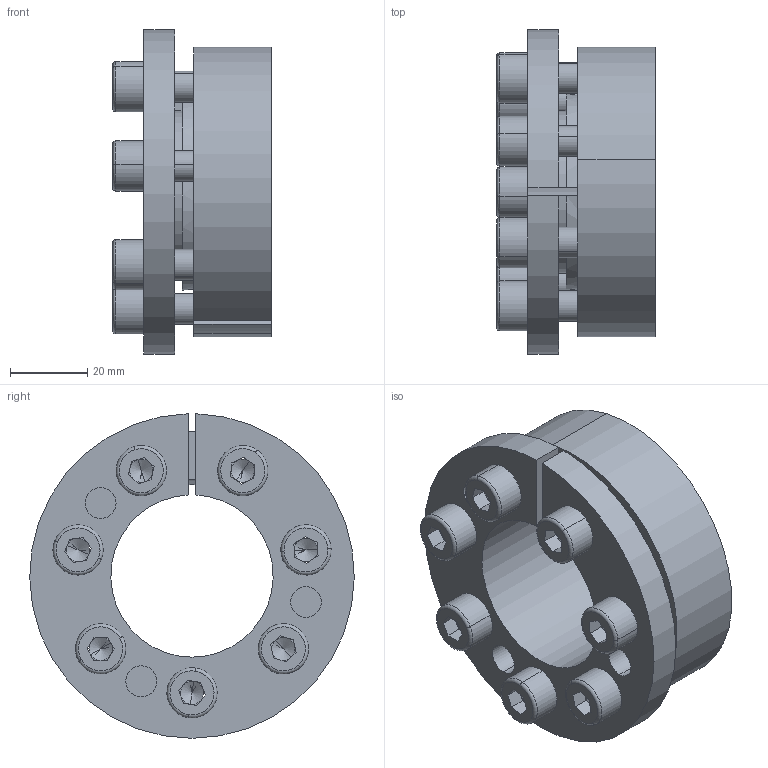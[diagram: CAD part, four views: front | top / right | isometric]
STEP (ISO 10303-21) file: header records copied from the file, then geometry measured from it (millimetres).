
FILE_DESCRIPTION (( 'STEP AP203' ), '1' );
FILE_NAME ('D3-42-75.STEP', '2017-10-12T05:58:30', ( 'MYCOM' ), ( '' ), 'SwSTEP 2.0', 'SolidWorks 2015', '' );
FILE_SCHEMA (( 'CONFIG_CONTROL_DESIGN' ));
Length unit declared in the file: millimetre
Products named in the file (1): D3-42-75
Bounding box: 41 x 83.99 x 83.99 mm (x, y, z)
Surface area: 42531.4 mm2 (no closed solid volume)
Topology: 0 solids, 16 shells, 195 faces, 504 edges, 305 vertices
Faces by surface type: plane 93, cylinder 70, cone 18, torus 14
Entity records: 5944 total; most frequent: DIRECTION 1094, CARTESIAN_POINT 1012, ORIENTED_EDGE 913, EDGE_CURVE 490, AXIS2_PLACEMENT_3D 412, VERTEX_POINT 305, VECTOR 270, LINE 270
